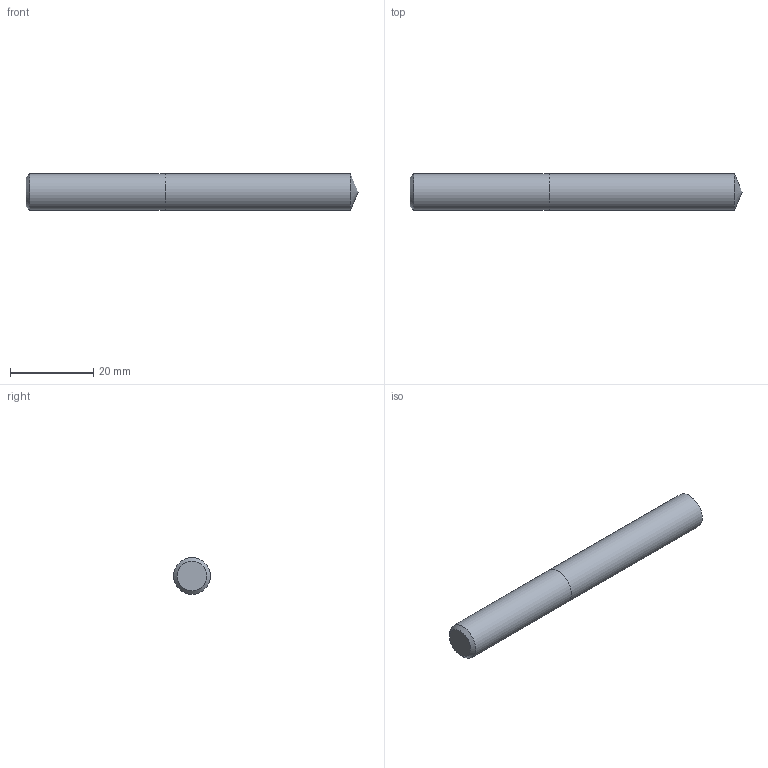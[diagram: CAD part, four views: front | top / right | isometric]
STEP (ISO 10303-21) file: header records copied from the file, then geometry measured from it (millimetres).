
FILE_DESCRIPTION (( 'STEP AP214' ), '1' );
FILE_NAME ('03-2335.STEP', '2022-06-03T06:22:34', ( 'USER' ), ( '' ), 'SwSTEP 2.0', 'SolidWorks 2018', '' );
FILE_SCHEMA (( 'AUTOMOTIVE_DESIGN' ));
Length unit declared in the file: inch
Products named in the file (1): 03-2335
Bounding box: 79.62 x 8.84 x 8.84 mm (x, y, z)
Volume: 4800.7 mm3; surface area: 2395.2 mm2
Topology: 2 solids, 2 shells, 7 faces, 11 edges, 7 vertices
Faces by surface type: plane 3, cylinder 2, cone 2
Full cylindrical faces by diameter (mm): 8.839 x2
Entity records: 214 total; most frequent: DIRECTION 26, CARTESIAN_POINT 18, AXIS2_PLACEMENT_3D 13, ORIENTED_EDGE 10, EDGE_LOOP 10, FACE_OUTER_BOUND 9, LENGTH_MEASURE_WITH_UNIT 7, DIMENSIONAL_EXPONENTS 7
